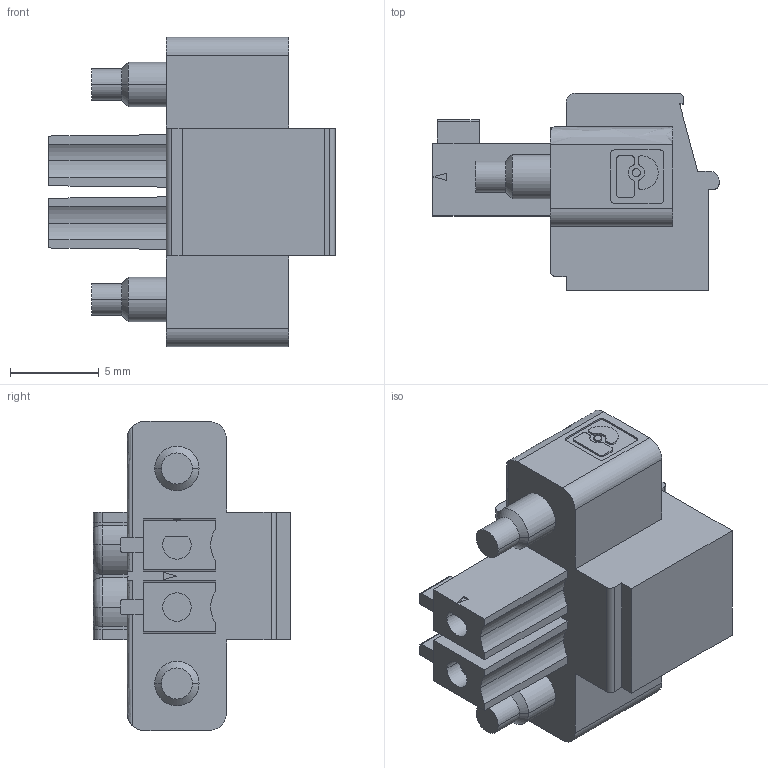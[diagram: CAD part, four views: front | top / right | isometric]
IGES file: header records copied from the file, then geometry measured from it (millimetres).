
Start section:  PTC IGES file: cu_ni-9976.igs
Global section: file name: cu_ni-9976.igs; native system: Creo Parametric by PTC Inc.; preprocessor: 2015380; author: dkendric; organization: Unknown; date: 20180201.101508; units: inch
Bounding box: 16.1 x 11.1 x 17.4 mm (x, y, z)
Surface area: 1224.7 mm2 (no closed solid volume)
Topology: 0 solids, 0 shells, 250 faces, 1286 edges, 1285 vertices
Faces by surface type: bspline 136, revolution 114
